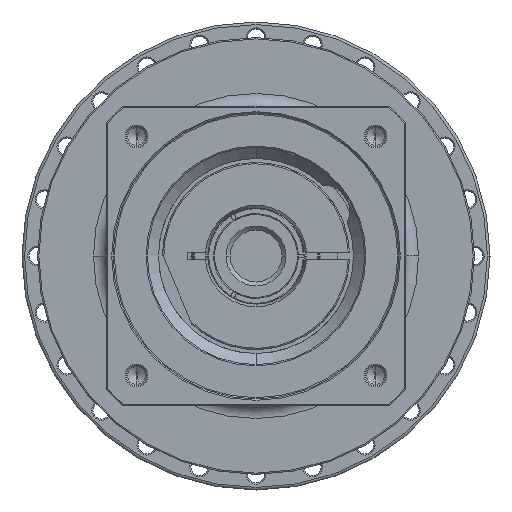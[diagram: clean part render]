
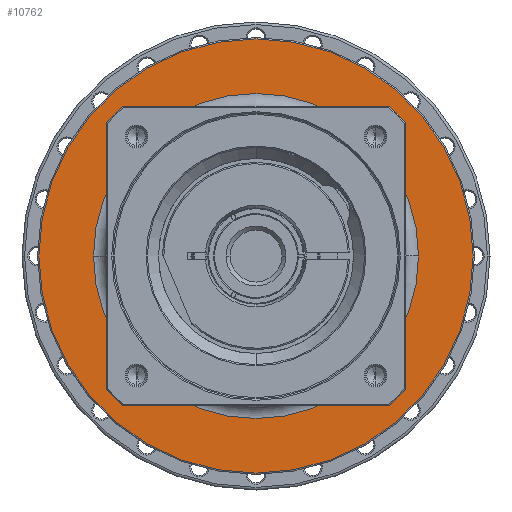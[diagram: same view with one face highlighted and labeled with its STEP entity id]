
A CAD part, left-side view. The second image highlights one B-rep face of the part: STEP entity #10762.
In plain terms, the highlighted planar face has unit normal (-1, 0, 0) as drawn and (1, 0, 0) by its records, which use the part's own axes.
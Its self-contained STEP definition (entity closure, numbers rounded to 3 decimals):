
#10241=CARTESIAN_POINT('',(-10.5,0.,0.));
#10242=DIRECTION('',(-1.,0.,0.));
#10243=DIRECTION('',(0.,-1.,0.));
#10244=AXIS2_PLACEMENT_3D('',#10241,#10242,#10243);
#10246=CARTESIAN_POINT('',(-10.5,0.,0.));
#10247=DIRECTION('',(-1.,0.,0.));
#10248=DIRECTION('',(0.,1.,0.));
#10249=AXIS2_PLACEMENT_3D('',#10246,#10247,#10248);
#10251=CARTESIAN_POINT('',(-10.5,0.,0.));
#10252=DIRECTION('',(-1.,0.,0.));
#10253=DIRECTION('',(0.,-1.,0.));
#10254=AXIS2_PLACEMENT_3D('',#10251,#10252,#10253);
#10256=CARTESIAN_POINT('',(-10.5,0.,0.));
#10257=DIRECTION('',(-1.,0.,0.));
#10258=DIRECTION('',(0.,1.,0.));
#10259=AXIS2_PLACEMENT_3D('',#10256,#10257,#10258);
#10325=CARTESIAN_POINT('',(-10.5,-83.5,0.));
#10326=CARTESIAN_POINT('',(-10.5,83.5,0.));
#10327=VERTEX_POINT('',#10325);
#10328=VERTEX_POINT('',#10326);
#10349=CARTESIAN_POINT('',(-10.5,-62.5,0.));
#10350=CARTESIAN_POINT('',(-10.5,62.5,0.));
#10351=VERTEX_POINT('',#10349);
#10352=VERTEX_POINT('',#10350);
#10747=CARTESIAN_POINT('',(-10.5,0.,0.));
#10748=DIRECTION('',(1.,0.,0.));
#10749=DIRECTION('',(0.,-1.,0.));
#10750=AXIS2_PLACEMENT_3D('',#10747,#10748,#10749);
#10751=PLANE('',#10750);
#10752=ORIENTED_EDGE('',*,*,#10688,.T.);
#10753=ORIENTED_EDGE('',*,*,#10703,.T.);
#10754=EDGE_LOOP('',(#10752,#10753));
#10755=FACE_OUTER_BOUND('',#10754,.F.);
#10757=ORIENTED_EDGE('',*,*,#10756,.F.);
#10759=ORIENTED_EDGE('',*,*,#10758,.F.);
#10760=EDGE_LOOP('',(#10757,#10759));
#10761=FACE_BOUND('',#10760,.F.);
#10762=ADVANCED_FACE('',(#10755,#10761),#10751,.T.);
#10245=CIRCLE('',#10244,62.5);
#10250=CIRCLE('',#10249,62.5);
#10255=CIRCLE('',#10254,83.5);
#10260=CIRCLE('',#10259,83.5);
#10688=EDGE_CURVE('',#10327,#10328,#10255,.T.);
#10703=EDGE_CURVE('',#10328,#10327,#10260,.T.);
#10756=EDGE_CURVE('',#10351,#10352,#10245,.T.);
#10758=EDGE_CURVE('',#10352,#10351,#10250,.T.);
